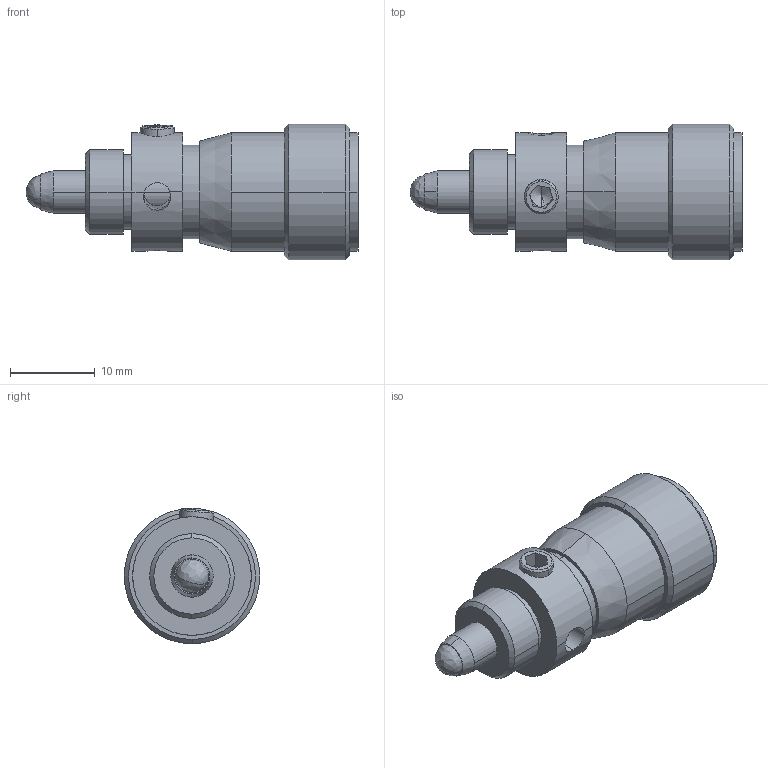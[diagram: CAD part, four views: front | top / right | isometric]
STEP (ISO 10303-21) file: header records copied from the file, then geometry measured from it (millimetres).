
FILE_DESCRIPTION (( 'STEP AP203' ), '1' );
FILE_NAME ('9S75ML-5.STEP', '2008-10-23T22:35:21', ( 'Darius' ), ( '' ), 'SwSTEP 2.0', 'SolidWorks 2003240', '' );
FILE_SCHEMA (( 'CONFIG_CONTROL_DESIGN' ));
Length unit declared in the file: millimetre
Products named in the file (1): 9S75ML-5
Bounding box: 39.2 x 16 x 16 mm (x, y, z)
Volume: 4389 mm3; surface area: 3257.4 mm2
Topology: 1 solids, 2 shells, 226 faces, 590 edges, 384 vertices
Faces by surface type: plane 73, bspline 73, cylinder 57, cone 23
Entity records: 9335 total; most frequent: CARTESIAN_POINT 4231, ORIENTED_EDGE 1172, DIRECTION 798, EDGE_CURVE 586, VERTEX_POINT 384, VECTOR 276, LINE 276, AXIS2_PLACEMENT_3D 261
